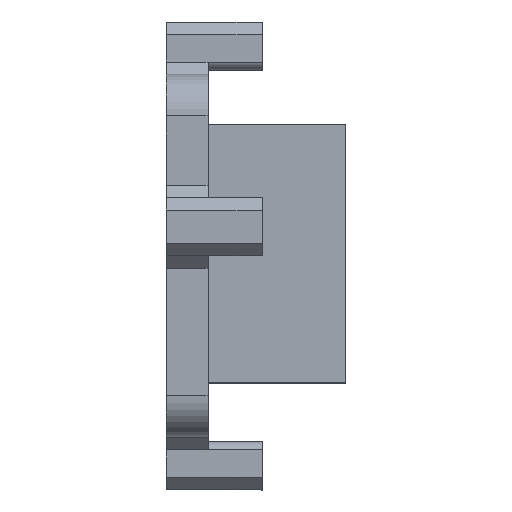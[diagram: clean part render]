
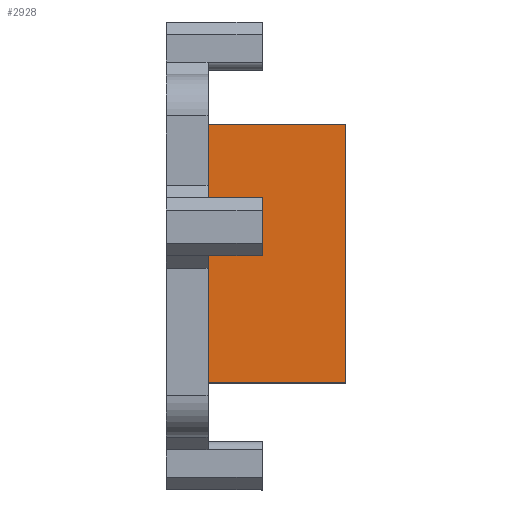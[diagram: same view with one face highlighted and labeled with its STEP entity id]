
A CAD part, top view. The second image highlights one B-rep face of the part: STEP entity #2928.
In plain terms, the highlighted planar face has unit normal (0, 0, 1).
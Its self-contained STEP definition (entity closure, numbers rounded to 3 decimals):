
#176=PLANE('',#3240);
#326=FACE_OUTER_BOUND('',#519,.T.);
#519=EDGE_LOOP('',(#2526,#2527,#2528,#2529));
#668=LINE('',#4462,#903);
#720=LINE('',#5166,#955);
#753=LINE('',#5295,#988);
#754=LINE('',#5296,#989);
#903=VECTOR('',#3633,10.);
#955=VECTOR('',#3883,10.);
#988=VECTOR('',#4046,10.);
#989=VECTOR('',#4047,10.);
#1266=VERTEX_POINT('',#4458);
#1268=VERTEX_POINT('',#4461);
#1355=VERTEX_POINT('',#5164);
#1386=VERTEX_POINT('',#5294);
#1585=EDGE_CURVE('',#1268,#1266,#668,.T.);
#1714=EDGE_CURVE('',#1355,#1266,#720,.T.);
#1780=EDGE_CURVE('',#1386,#1268,#753,.T.);
#1781=EDGE_CURVE('',#1386,#1355,#754,.T.);
#2526=ORIENTED_EDGE('',*,*,#1780,.T.);
#2527=ORIENTED_EDGE('',*,*,#1585,.T.);
#2528=ORIENTED_EDGE('',*,*,#1714,.F.);
#2529=ORIENTED_EDGE('',*,*,#1781,.F.);
#2928=ADVANCED_FACE('',(#326),#176,.T.);
#3240=AXIS2_PLACEMENT_3D('',#5293,#4044,#4045);
#3633=DIRECTION('',(0.,-1.,0.));
#3883=DIRECTION('',(-1.,0.,0.));
#4044=DIRECTION('center_axis',(0.,0.,1.));
#4045=DIRECTION('ref_axis',(0.,1.,0.));
#4046=DIRECTION('',(-1.,0.,0.));
#4047=DIRECTION('',(0.,-1.,0.));
#4458=CARTESIAN_POINT('',(-16.5,0.5,18.116));
#4461=CARTESIAN_POINT('',(-16.5,31.5,18.116));
#4462=CARTESIAN_POINT('',(-16.5,31.5,18.116));
#5164=CARTESIAN_POINT('',(0.,0.5,18.116));
#5166=CARTESIAN_POINT('',(-13.5,0.5,18.116));
#5293=CARTESIAN_POINT('Origin',(0.,0.5,18.116));
#5294=CARTESIAN_POINT('',(0.,31.5,18.116));
#5295=CARTESIAN_POINT('',(-13.5,31.5,18.116));
#5296=CARTESIAN_POINT('',(0.,8.125,18.116));
